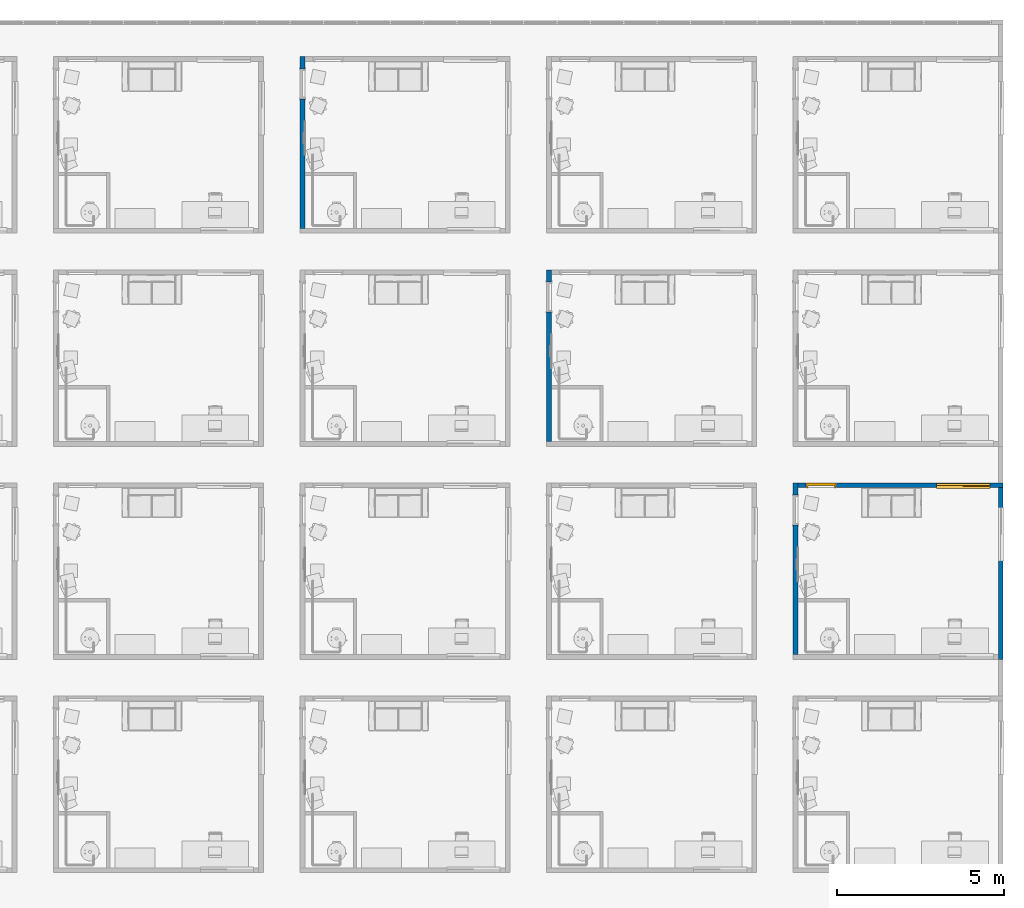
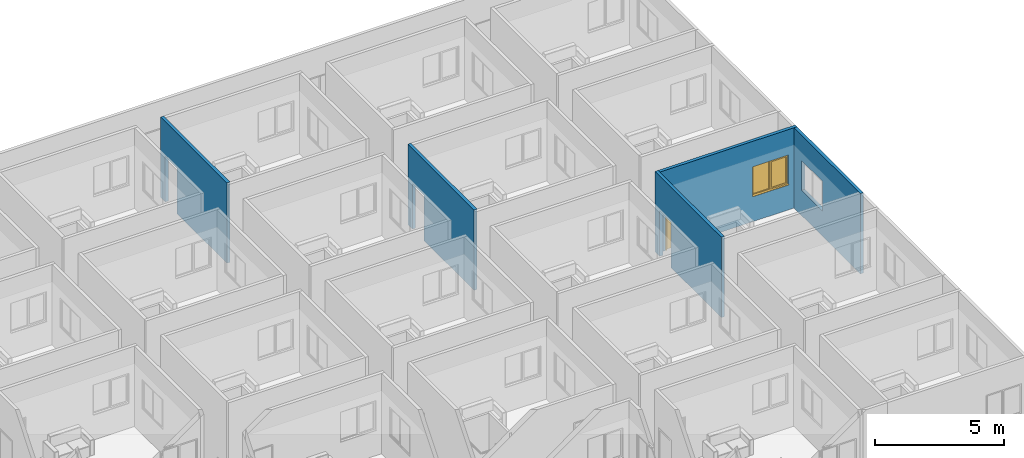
# One storey, part 11 of 72: 5 walls, 1 door, 1 window, 6 openings.
"""IFC4 building model written with IfcOpenShell, lengths in centimetres."""

from ifc_helpers import new_model, entity, si_unit, converted_unit, derived_unit, direction, frame, origin, place, context, subcontext, project, spatial, indexed_curve, outline, extrude, polygons, source, transform, mapped, material, constituent, constituent_set, type_object, type_shapes, element, fill, save


model = new_model("IFC4")

# Units and contexts
model_context = context("Model", 3, precision=0.001, world=origin(), true_north=direction((6.123233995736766e-17, 1.0)))
body_context = subcontext(model_context, "Body", "Model", "MODEL_VIEW")
ifc_project = project(units=[si_unit("LENGTHUNIT", "METRE", prefix="CENTI"), si_unit("AREAUNIT", "SQUARE_METRE"), si_unit("VOLUMEUNIT", "CUBIC_METRE"), derived_unit("THERMALTRANSMITTANCEUNIT", [(si_unit("MASSUNIT", "GRAM", prefix="KILO"), 1), (si_unit("THERMODYNAMICTEMPERATUREUNIT", "KELVIN"), -1), (si_unit("TIMEUNIT", "SECOND"), -3)]), converted_unit("PLANEANGLEUNIT", "DEGREE", entity("IfcPlaneAngleMeasure", 0.017453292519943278), si_unit("PLANEANGLEUNIT", "RADIAN"), dimensions=[0, 0, 0, 0, 0, 0, 0]), derived_unit("MASSDENSITYUNIT", [(si_unit("MASSUNIT", "GRAM", prefix="KILO"), 1), (si_unit("LENGTHUNIT", "METRE"), -3)]), derived_unit("VAPORPERMEABILITYUNIT", [(si_unit("LENGTHUNIT", "METRE"), -1), (si_unit("TIMEUNIT", "SECOND"), 1)]), derived_unit("USERDEFINED", [(si_unit("MASSUNIT", "GRAM", prefix="KILO"), 1), (si_unit("TIMEUNIT", "SECOND"), -3), (si_unit("LENGTHUNIT", "METRE"), 3), (si_unit("ELECTRICCURRENTUNIT", "AMPERE"), -2)]), derived_unit("SPECIFICHEATCAPACITYUNIT", [(si_unit("THERMODYNAMICTEMPERATUREUNIT", "KELVIN"), -1), (si_unit("LENGTHUNIT", "METRE"), 2), (si_unit("TIMEUNIT", "SECOND"), -2)]), derived_unit("THERMALCONDUCTANCEUNIT", [(si_unit("MASSUNIT", "GRAM", prefix="KILO"), 1), (si_unit("THERMODYNAMICTEMPERATUREUNIT", "KELVIN"), -1), (si_unit("TIMEUNIT", "SECOND"), -3), (si_unit("LENGTHUNIT", "METRE"), 1)]), si_unit("PRESSUREUNIT", "PASCAL"), derived_unit("MODULUSOFELASTICITYUNIT", [(si_unit("MASSUNIT", "GRAM", prefix="KILO"), 1), (si_unit("LENGTHUNIT", "METRE"), -1), (si_unit("TIMEUNIT", "SECOND"), -2)]), derived_unit("THERMALEXPANSIONCOEFFICIENTUNIT", [(si_unit("THERMODYNAMICTEMPERATUREUNIT", "KELVIN"), -1)])], contexts=[model_context])

# Site, building, storey
site_placement = place(None, origin())
site = spatial("IfcSite", under=ifc_project, at=site_placement, Name="Default", CompositionType="ELEMENT")
building_placement = place(site_placement, origin())
building = spatial("IfcBuilding", under=site, at=building_placement, Name="IDS Escape Game Building", CompositionType="ELEMENT")
storey_placement = place(building_placement, frame((0.0, 0.0, 800.0)))
storey = spatial("IfcBuildingStorey", under=building, at=storey_placement, Name="02_Second Floor", CompositionType="ELEMENT", Elevation=800.0)

# Wall, opening
ifc_material_1 = material(Name="ARC_FME.g2_Fg2 Masonry_00_gen_BERSnl", Category="g - klei")
wall_type = type_object("IfcWallType", Name="Basic Wall:ARC_22.10_WA_LB_SB14_gen_BERSnl", PredefinedType="STANDARD")
wall_1_placement = place(storey_placement, frame((4428.0, 1803.0, 0.0), z_axis=(0.0, 0.0, 1.0), x_axis=(0.0, -1.0, 0.0)))
wall_1 = element("IfcWall", 1, at=wall_1_placement, inside=storey, type_object=wall_type, material=ifc_material_1, Name="Basic Wall:ARC_22.10_WA_LB_SB14_gen_BERSnl", ObjectType="Basic Wall:ARC_22.10_WA_LB_SB14_gen_BERSnl", PredefinedType="NOTDEFINED", context=body_context, shape_type="Tessellation", body=[
    polygons([(514.0000000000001, -7.000000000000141, 379.9999999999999), (0.0, -7.000000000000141, 379.9999999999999), (0.0, -7.000000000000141, -1.0828671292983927e-13), (35.999999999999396, -7.000000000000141, -1.0828671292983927e-13), (35.99999999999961, -7.000000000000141, 215.00000000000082), (125.99999999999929, -7.000000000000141, 215.00000000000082), (125.99999999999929, -7.000000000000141, -1.0828671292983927e-13), (514.0000000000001, -7.000000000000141, -1.0828671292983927e-13), (0.0, 7.000000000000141, 379.9999999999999), (14.000000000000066, 7.000000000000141, 379.9999999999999), (514.0000000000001, 7.000000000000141, 379.9999999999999), (514.0000000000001, 7.000000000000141, -1.0828671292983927e-13), (355.999999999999, 7.000000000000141, -1.0828671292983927e-13), (345.99999999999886, 7.000000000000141, -1.0828671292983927e-13), (125.99999999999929, 7.000000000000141, -1.0828671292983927e-13), (125.99999999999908, 7.000000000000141, 215.00000000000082), (35.999999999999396, 7.000000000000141, 215.00000000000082), (35.999999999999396, 7.000000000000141, -1.0828671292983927e-13), (14.000000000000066, 7.000000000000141, -1.0828671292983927e-13), (0.0, 7.000000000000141, -1.0828671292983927e-13)], [[[1, 2, 3, 4, 5, 6, 7, 8]], [[9, 10, 11, 12, 13, 14, 15, 16, 17, 18, 19, 20]], [[3, 20, 19, 18, 4]], [[2, 1, 11, 10, 9]], [[17, 5, 4, 18]], [[6, 16, 15, 7]], [[5, 17, 16, 6]], [[3, 2, 9, 20]], [[1, 8, 12, 11]], [[12, 8, 7, 15, 14, 13]]], closed=True),
])
opening_1_placement = place(wall_1_placement, frame((1803.0, -4428.0, 0.0), z_axis=(0.0, 0.0, 1.0), x_axis=(0.0, 1.0, 0.0)))
element("IfcOpeningElement", 2, at=opening_1_placement, cuts=wall_1, Name="Basic Wall:ARC_22.10_WA_LB_SB14_gen_BERSnl", PredefinedType="OPENING", context=body_context, shape_type="SweptSolid", body=[
    extrude(outline(indexed_curve([(-137.49999999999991, -44.99999999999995), (137.49999999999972, -44.99999999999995), (137.49999999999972, 44.99999999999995), (-137.49999999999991, 44.99999999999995), (-137.49999999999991, -44.99999999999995)], self_intersect=False)), frame((4338.0, 1722.0, 77.50000000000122), z_axis=(1.0, 0.0, 0.0), x_axis=(0.0, 0.0, 1.0)), (0.0, 0.0, 1.0), 166.00000000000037),
])

# Wall, openings, door, window
wall_2_placement = place(storey_placement, frame((5049.0, 1796.0, 0.0), z_axis=(0.0, 0.0, 1.0), x_axis=(-1.0, 0.0, 0.0)))
wall_2 = element("IfcWall", 3, at=wall_2_placement, inside=storey, type_object=wall_type, material=ifc_material_1, Name="Basic Wall:ARC_22.10_WA_LB_SB14_gen_BERSnl", ObjectType="Basic Wall:ARC_22.10_WA_LB_SB14_gen_BERSnl", PredefinedType="NOTDEFINED", context=body_context, shape_type="Tessellation", body=[
    polygons([(38.999999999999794, -7.0000000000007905, 119.9999999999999), (38.999999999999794, -7.0000000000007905, 260.0000000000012), (198.9999999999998, -7.0000000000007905, 260.0000000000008), (198.9999999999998, -7.0000000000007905, 119.9999999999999), (194.00000000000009, -7.000000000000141, 119.9999999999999), (43.999999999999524, -7.000000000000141, 119.9999999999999), (613.9999999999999, -7.000000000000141, 379.9999999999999), (14.000000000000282, -7.000000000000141, 379.9999999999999), (0.0, -7.000000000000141, 379.9999999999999), (0.0, -7.000000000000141, -1.0828671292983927e-13), (14.000000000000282, -7.000000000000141, -1.0828671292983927e-13), (498.99999999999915, -7.000000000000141, -1.0828671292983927e-13), (498.99999999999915, -7.000000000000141, 215.00000000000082), (588.9999999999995, -7.000000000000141, 215.00000000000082), (588.9999999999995, -7.000000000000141, -1.0828671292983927e-13), (613.9999999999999, -7.000000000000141, -1.0828671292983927e-13), (0.0, 6.9999999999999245, 379.9999999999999), (14.000000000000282, 6.9999999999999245, 379.9999999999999), (613.9999999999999, 6.9999999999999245, 379.9999999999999), (613.9999999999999, 6.9999999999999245, -1.0828671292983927e-13), (588.9999999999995, 6.9999999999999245, -1.0828671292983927e-13), (588.9999999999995, 6.9999999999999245, 215.00000000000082), (498.99999999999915, 6.9999999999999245, 215.00000000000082), (498.99999999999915, 6.9999999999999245, -1.0828671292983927e-13), (14.000000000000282, 6.9999999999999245, -1.0828671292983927e-13), (0.0, 6.9999999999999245, -1.0828671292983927e-13), (38.999999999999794, 6.9999999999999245, 260.00000000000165), (38.999999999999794, 6.9999999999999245, 119.9999999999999), (198.9999999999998, 6.9999999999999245, 119.9999999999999), (198.9999999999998, 6.9999999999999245, 260.0000000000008)], [[[7, 8, 9, 10, 11, 12, 13, 14, 15, 16], [1, 2, 3, 4, 5, 6]], [[17, 18, 19, 20, 21, 22, 23, 24, 25, 26], [27, 28, 29, 30]], [[12, 11, 10, 26, 25, 24]], [[9, 8, 7, 19, 18, 17]], [[14, 22, 21, 15]], [[23, 13, 12, 24]], [[22, 14, 13, 23]], [[1, 28, 27, 2]], [[3, 30, 29, 4]], [[30, 3, 2, 27]], [[28, 1, 6, 5, 4, 29]], [[10, 9, 17, 26]], [[7, 16, 20, 19]], [[16, 15, 21, 20]]], closed=True),
])
opening_2_placement = place(wall_2_placement, frame((5049.0, 1796.0, 0.0), z_axis=(0.0, 0.0, 1.0), x_axis=(-1.0, 0.0, 0.0)))
opening_2 = element("IfcOpeningElement", 4, at=opening_2_placement, cuts=wall_2, Name="Basic Wall:ARC_22.10_WA_LB_SB14_gen_BERSnl", PredefinedType="OPENING", context=body_context, shape_type="SweptSolid", body=[
    extrude(outline(indexed_curve([(-45.00000000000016, -137.49999999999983), (45.00000000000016, -137.49999999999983), (45.00000000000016, 137.49999999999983), (-45.00000000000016, 137.49999999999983), (-45.00000000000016, -137.49999999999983)], self_intersect=False)), frame((4505.0, 1886.0, 77.50000000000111), z_axis=(0.0, -1.0, 0.0), x_axis=(1.0, 0.0, 0.0)), (0.0, 0.0, 1.0), 165.99999999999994),
])
opening_3_placement = place(wall_2_placement, frame((5049.0, 1796.0, 120.0), z_axis=(0.0, 0.0, 1.0), x_axis=(-1.0, 0.0, 0.0)))
opening_3 = element("IfcOpeningElement", 5, at=opening_3_placement, cuts=wall_2, Name="Basic Wall:ARC_22.10_WA_LB_SB14_gen_BERSnl", PredefinedType="OPENING", context=body_context, shape_type="Tessellation", body=[
    polygons([(5010.0, 1803.0, 0.0), (5010.0, 1803.0, -0.9999999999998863), (5010.0, 1808.0000000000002, -0.9999999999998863), (5010.0, 1808.0000000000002, 0.0), (4850.0, 1803.0, 0.0), (4850.0, 1808.0000000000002, 0.0), (4850.0, 1808.0000000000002, -0.9999999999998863), (4850.0, 1803.0, -0.9999999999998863), (5005.0, 1803.0000000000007, 1.1368683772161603e-13), (4855.0, 1803.0000000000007, 1.1368683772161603e-13), (4855.0, 1808.0000000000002, 0.0), (4855.000000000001, 1808.0000000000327, 134.99999999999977), (5005.0, 1808.0000000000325, 134.99999999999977), (5005.0, 1808.0000000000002, 0.0), (5010.0, 1783.9631748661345, 0.0), (5010.0, 1803.0000000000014, 1.1368683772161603e-13), (5010.0, 1803.0000000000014, 140.0000000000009), (5010.0, 1783.9631748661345, 140.00000000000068), (4850.0, 1783.9631748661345, 140.00000000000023), (4850.0, 1803.0000000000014, 140.00000000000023), (4850.0, 1803.0000000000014, 0.0), (4850.0, 1783.9631748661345, 1.1368683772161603e-13), (5005.0, 1803.0000000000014, 134.99999999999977), (4855.000000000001, 1803.0000000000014, 134.99999999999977)], [[[1, 2, 3, 4]], [[5, 6, 7, 8]], [[1, 9, 10, 5, 8, 2]], [[2, 8, 7, 3]], [[3, 7, 6, 11, 12, 13, 14, 4]], [[4, 14, 9, 1]], [[15, 16, 17, 18]], [[19, 20, 21, 22]], [[18, 17, 20, 19]], [[18, 19, 22, 15]], [[17, 16, 9, 23, 24, 10, 21, 20]], [[22, 21, 10, 9, 16, 15]], [[11, 10, 24, 12]], [[13, 23, 9, 14]], [[12, 24, 23, 13]], [[5, 10, 11, 6]]], closed=True),
])
ifc_material_2 = material(Name="ARC_FME.i3_wood_00_gen_BERSnl", Category="i - hout")
door_type = type_object("IfcDoorType", Name="ARC_32.30_DO_WB_binnendeur enkel draaiend met void_gen_BERSnl:hout_blokkader_830x2115_EI00", OperationType="SINGLE_SWING_LEFT", PredefinedType="DOOR", material=ifc_material_2)
shared_shape_1 = source(origin(), body_context, "Body", "Tessellation", [
    extrude(outline(indexed_curve([(-3.7499999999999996, -41.49999999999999), (3.7499999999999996, -41.49999999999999), (3.7499999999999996, 41.49999999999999), (-3.7499999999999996, 41.49999999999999), (-3.7499999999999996, -41.49999999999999)], self_intersect=False)), frame((45.0, 107.25000000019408, 60.0), z_axis=(0.0, 0.0, 1.0), x_axis=(0.0, -1.0, 0.0)), (0.0, 0.0, 1.0), 211.50000000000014),
    polygons([(1.000000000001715, 111.00000000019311, 59.999999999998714), (3.5000000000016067, 111.00000000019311, 59.999999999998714), (3.500000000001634, 103.50000000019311, 59.999999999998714), (5.000000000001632, 103.50000000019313, 59.999999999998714), (5.000000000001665, 96.00000000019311, 59.999999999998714), (1.0000000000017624, 96.0000000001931, 59.999999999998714), (1.0000000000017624, 96.0000000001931, 273.99999999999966), (1.000000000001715, 111.0000000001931, 273.99999999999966), (5.000000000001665, 96.00000000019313, 269.9999999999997), (85.00000000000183, 96.00000000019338, 269.9999999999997), (85.00000000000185, 96.00000000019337, 59.9999999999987), (89.00000000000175, 96.00000000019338, 59.9999999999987), (89.00000000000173, 96.0000000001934, 273.99999999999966), (5.000000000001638, 103.50000000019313, 269.9999999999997), (3.500000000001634, 103.50000000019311, 271.4999999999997), (86.50000000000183, 103.50000000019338, 271.4999999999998), (86.50000000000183, 103.50000000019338, 59.9999999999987), (85.00000000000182, 103.50000000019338, 59.9999999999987), (85.00000000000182, 103.50000000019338, 269.9999999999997), (3.500000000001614, 111.00000000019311, 271.4999999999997), (89.00000000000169, 111.0000000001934, 273.99999999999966), (89.00000000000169, 111.0000000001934, 59.9999999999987), (86.50000000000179, 111.00000000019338, 59.9999999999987), (86.5000000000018, 111.00000000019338, 271.4999999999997)], [[[1, 2, 3, 4, 5, 6]], [[6, 7, 8, 1]], [[5, 9, 10, 11, 12, 13, 7, 6]], [[4, 14, 9, 5]], [[3, 15, 16, 17, 18, 19, 14, 4]], [[2, 20, 15, 3]], [[1, 8, 21, 22, 23, 24, 20, 2]], [[13, 12, 22, 21]], [[22, 12, 11, 18, 17, 23]], [[19, 18, 11, 10]], [[24, 23, 17, 16]], [[7, 13, 21, 8]], [[14, 19, 10, 9]], [[20, 24, 16, 15]]], closed=True),
])
type_shapes(door_type, [shared_shape_1])
door_placement = place(opening_2_placement, frame((4460.0, 1692.0, -60.0)))
door = element("IfcDoor", 6, at=door_placement, inside=storey, type_object=door_type, material=ifc_material_2, Name="ARC_32.30_DO_WB_binnendeur enkel draaiend met void_gen_BERSnl:hout_blokkader_830x2115_EI00", ObjectType="ARC_32.30_DO_WB_binnendeur enkel draaiend met void_gen_BERSnl:hout_blokkader_830x2115_EI00", OverallHeight=274.99999999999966, OverallWidth=90.00000000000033, PredefinedType="DOOR", context=body_context, shape_type="MappedRepresentation", body=[
    mapped(shared_shape_1, transform((0.0, 0.0, 0.0), scale=1.0)),
])
fill(opening_2, door)
ifc_material_3 = material(Name="<Unnamed>")
ifc_constituent_1 = constituent(ifc_material_3, Name="<Unnamed>", fraction=0.0)
ifc_material_4 = material(Name="ARC_FME.o1_glass_00_gen_BERSnl", Category="o - glas")
ifc_constituent_2 = constituent(ifc_material_4, Name="ARC_FME.o1_glass_00_gen_BERSnl", Category="o - glas", fraction=1.0)
ifc_constituent_set_1 = constituent_set(constituents=[ifc_constituent_1, ifc_constituent_2])
ifc_constituent_3 = constituent(ifc_material_3, Name="BE Tablet", fraction=0.0)
ifc_constituent_4 = constituent(ifc_material_3, Name="Frame/Mullion", fraction=0.0)
ifc_constituent_5 = constituent(ifc_material_4, Name="Glass", Category="o - glas", fraction=1.0)
ifc_constituent_set_2 = constituent_set(constituents=[ifc_constituent_3, ifc_constituent_4, ifc_constituent_5])
window_type = type_object("IfcWindowType", Name="ARC_31_WI_WB_Dubbel Raam-Recht-Vast en Draaiend_gen_BERSnl:Links-Draaiend / Rechts-Draaiend", PartitioningType="NOTDEFINED", PredefinedType="WINDOW", material=ifc_constituent_set_2)
shared_shape_2 = source(origin(), body_context, "Body", "Tessellation", [
    extrude(outline(indexed_curve([(-80.00000000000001, -4.999999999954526), (80.00000000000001, -4.999999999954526), (80.00000000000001, 4.999999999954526), (-80.00000000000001, 4.999999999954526), (-80.00000000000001, -4.999999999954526)], self_intersect=False)), frame((80.0, 7.036825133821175, 1.0), z_axis=(0.0, 0.0, 1.0), x_axis=(-1.0, 0.0, 0.0)), (0.0, 0.0, 1.0), 2.000000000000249),
    extrude(outline(indexed_curve([(-2.9999999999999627, -3.000000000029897), (-7.656209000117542e-14, -3.000000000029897), (-7.064016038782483e-14, 5.979964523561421e-11), (3.0000000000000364, 5.978991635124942e-11), (3.0000000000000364, 2.9999999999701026), (-2.9999999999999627, 2.9999999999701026), (-2.9999999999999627, -3.000000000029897)], self_intersect=False)), frame((80.0, 15.03682513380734, 7.0)), (0.0, 0.0, 1.0), 128.00000000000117),
    extrude(outline(indexed_curve([(-35.499999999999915, -1.2000000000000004), (35.499999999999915, -1.2000000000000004), (35.49999999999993, 1.2), (-35.499999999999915, 1.2), (-35.499999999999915, -1.2000000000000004)], self_intersect=False)), frame((41.50000000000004, 15.036825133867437, 7.0), z_axis=(0.0, 0.0, 1.0), x_axis=(-1.0, 0.0, 0.0)), (0.0, 0.0, 1.0), 128.000000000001),
    extrude(outline(indexed_curve([(-67.00000000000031, -38.500000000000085), (67.00000000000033, -38.5000000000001), (67.00000000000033, 38.50000000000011), (-67.00000000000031, 38.50000000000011), (-67.00000000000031, -38.500000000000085)], self_intersect=False), holes=[indexed_curve([(61.00000000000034, -32.50000000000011), (-61.00000000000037, -32.500000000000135), (-61.00000000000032, 32.50000000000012), (61.00000000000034, 32.50000000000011), (61.00000000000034, -32.50000000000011)], self_intersect=False)]), frame((118.5, 9.03682513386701, 71.0), z_axis=(0.0, 1.0, 0.0), x_axis=(0.0, 0.0, -1.0)), (0.0, 0.0, 1.0), 6.0),
    extrude(outline(indexed_curve([(-32.500000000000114, -1.2000000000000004), (32.500000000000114, -1.2000000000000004), (32.500000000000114, 1.2000000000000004), (-32.500000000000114, 1.2000000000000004), (-32.500000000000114, -1.2000000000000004)], self_intersect=False)), frame((118.5, 12.036825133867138, 10.0), z_axis=(0.0, 0.0, 1.0), x_axis=(-1.0, 0.0, 0.0)), (0.0, 0.0, 1.0), 122.00000000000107),
    polygons([(160.00000000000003, 18.03682513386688, 141.00000000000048), (160.00000000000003, 18.03682513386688, 1.0000000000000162), (4.0607517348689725e-14, 18.036825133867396, 1.0000000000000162), (4.0607517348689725e-14, 18.036825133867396, 141.00000000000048), (6.000000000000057, 18.03682513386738, 135.00000000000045), (6.000000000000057, 18.03682513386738, 7.000000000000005), (76.99999999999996, 18.03682513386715, 7.000000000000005), (154.00000000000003, 18.0368251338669, 7.000000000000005), (154.00000000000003, 18.0368251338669, 135.00000000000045), (76.99999999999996, 18.03682513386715, 135.00000000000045), (160.0, 12.03682513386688, 141.00000000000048), (160.0, 12.03682513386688, 1.0000000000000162), (2.7071678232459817e-14, 12.036825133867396, 1.0000000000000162), (2.7071678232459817e-14, 12.036825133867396, 141.00000000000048), (6.000000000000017, 12.036825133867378, 135.00000000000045), (6.000000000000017, 12.036825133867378, 7.000000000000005), (76.99999999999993, 12.036825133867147, 7.000000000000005), (79.99999999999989, 12.036825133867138, 7.000000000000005), (79.9999999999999, 15.036825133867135, 7.000000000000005), (154.00000000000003, 15.0368251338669, 7.000000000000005), (154.00000000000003, 15.036825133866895, 135.00000000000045), (76.99999999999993, 12.036825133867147, 135.00000000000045), (79.99999999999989, 12.036825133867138, 135.00000000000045), (79.99999999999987, 12.036825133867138, 138.00000000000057), (157.00000000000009, 12.036825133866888, 138.00000000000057), (157.00000000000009, 12.036825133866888, 3.9999999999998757), (79.99999999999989, 12.036825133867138, 3.9999999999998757), (157.0000000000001, 15.036825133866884, 3.9999999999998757), (157.0000000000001, 15.036825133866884, 138.00000000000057), (79.99999999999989, 15.036825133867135, 3.9999999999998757), (79.99999999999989, 15.036825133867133, 138.00000000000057), (79.99999999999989, 15.036825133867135, 135.00000000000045)], [[[1, 2, 3, 4], [5, 6, 7, 8, 9, 10]], [[2, 1, 11, 12]], [[3, 2, 12, 13]], [[4, 3, 13, 14]], [[6, 5, 15, 16]], [[6, 16, 17, 18, 19, 20, 8, 7]], [[9, 8, 20, 21]], [[11, 14, 13, 12], [16, 15, 22, 23, 24, 25, 26, 27, 18, 17]], [[28, 26, 25, 29]], [[30, 27, 26, 28]], [[31, 24, 23, 32]], [[30, 28, 29, 31, 32, 21, 20, 19]], [[1, 4, 14, 11]], [[15, 5, 10, 9, 21, 32, 23, 22]], [[24, 31, 29, 25]], [[27, 30, 19, 18]]], closed=True),
])
type_shapes(window_type, [shared_shape_2])
window_placement = place(opening_3_placement, frame((4850.0, 1783.9631748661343, -1.0)))
window = element("IfcWindow", 7, at=window_placement, inside=storey, type_object=window_type, material=ifc_constituent_set_1, Name="ARC_31_WI_WB_Dubbel Raam-Recht-Vast en Draaiend_gen_BERSnl:Links-Draaiend / Rechts-Draaiend", ObjectType="ARC_31_WI_WB_Dubbel Raam-Recht-Vast en Draaiend_gen_BERSnl:Links-Draaiend / Rechts-Draaiend", OverallHeight=140.00000000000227, OverallWidth=160.0000000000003, PartitioningType="NOTDEFINED", PredefinedType="WINDOW", context=body_context, shape_type="MappedRepresentation", body=[
    mapped(shared_shape_2, transform((0.0, 0.0, 0.0), scale=1.0)),
])
fill(opening_3, window)

# Wall, opening
wall_3_placement = place(storey_placement, frame((5042.0, 1275.0, 0.0), z_axis=(0.0, 0.0, 1.0), x_axis=(0.0, 1.0, 0.0)))
wall_3 = element("IfcWall", 8, at=wall_3_placement, inside=storey, type_object=wall_type, material=ifc_material_1, Name="Basic Wall:ARC_22.10_WA_LB_SB14_gen_BERSnl", ObjectType="Basic Wall:ARC_22.10_WA_LB_SB14_gen_BERSnl", PredefinedType="NOTDEFINED", context=body_context, shape_type="Tessellation", body=[
    polygons([(0.0, -7.000000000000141, -1.0828671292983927e-13), (514.0000000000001, -7.000000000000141, -1.0828671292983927e-13), (514.0000000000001, -7.000000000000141, 379.9999999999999), (0.0, -7.000000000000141, 379.9999999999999), (454.0000000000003, -7.000000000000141, 260.00000000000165), (454.0000000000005, -7.000000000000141, 119.9999999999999), (294.0000000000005, -7.000000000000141, 119.9999999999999), (294.0000000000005, -7.000000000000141, 260.00000000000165), (454.0000000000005, 7.000000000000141, 119.9999999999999), (454.0000000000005, 7.000000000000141, 260.0000000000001), (294.0000000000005, 7.000000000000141, 260.0000000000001), (294.0000000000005, 7.000000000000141, 119.9999999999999), (0.0, 7.000000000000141, -1.0828671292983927e-13), (0.0, 7.000000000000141, 379.9999999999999), (14.000000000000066, 7.000000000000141, 379.9999999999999), (514.0000000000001, 7.000000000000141, 379.9999999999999), (514.0000000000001, 7.000000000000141, -1.0828671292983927e-13), (14.000000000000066, 7.000000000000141, -1.0828671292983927e-13)], [[[1, 2, 3, 4], [5, 6, 7, 8]], [[13, 14, 15, 16, 17, 18], [9, 10, 11, 12]], [[2, 1, 13, 18, 17]], [[4, 3, 16, 15, 14]], [[10, 9, 6, 5]], [[7, 12, 11, 8]], [[10, 5, 8, 11]], [[12, 7, 6, 9]], [[1, 4, 14, 13]], [[3, 2, 17, 16]]], closed=True),
])
opening_4_placement = place(wall_3_placement, frame((-1275.0, 5042.0, 120.0), z_axis=(0.0, 0.0, 1.0), x_axis=(0.0, -1.0, 0.0)))
element("IfcOpeningElement", 9, at=opening_4_placement, cuts=wall_3, Name="Basic Wall:ARC_22.10_WA_LB_SB14_gen_BERSnl", PredefinedType="OPENING", context=body_context, shape_type="Tessellation", body=[
    polygons([(5035.0, 1729.0000000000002, 0.0), (5035.0, 1729.0000000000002, -0.9999999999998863), (5030.0, 1729.0000000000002, -0.9999999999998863), (5030.0, 1729.0000000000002, 0.0), (5035.0, 1569.0000000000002, 0.0), (5030.0, 1569.0000000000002, 0.0), (5030.0, 1569.0000000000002, -0.9999999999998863), (5035.0, 1569.0000000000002, -0.9999999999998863), (5034.999999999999, 1724.0000000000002, 1.1368683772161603e-13), (5035.0, 1574.0000000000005, 1.1368683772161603e-13), (5030.0, 1574.0000000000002, 0.0), (5029.999999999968, 1574.0000000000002, 134.99999999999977), (5029.999999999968, 1724.0000000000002, 134.99999999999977), (5030.0, 1724.0000000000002, 0.0), (5054.036825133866, 1729.0000000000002, 0.0), (5034.999999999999, 1729.0000000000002, 1.1368683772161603e-13), (5034.999999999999, 1729.0000000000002, 140.0000000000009), (5054.036825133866, 1729.0000000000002, 140.00000000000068), (5054.036825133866, 1569.0000000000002, 140.00000000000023), (5034.999999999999, 1569.0000000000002, 140.00000000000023), (5034.999999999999, 1569.0000000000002, 0.0), (5054.036825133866, 1569.0000000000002, 1.1368683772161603e-13), (5034.999999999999, 1724.0000000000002, 134.99999999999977), (5034.999999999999, 1574.0000000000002, 134.99999999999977)], [[[1, 2, 3, 4]], [[5, 6, 7, 8]], [[1, 9, 10, 5, 8, 2]], [[2, 8, 7, 3]], [[3, 7, 6, 11, 12, 13, 14, 4]], [[4, 14, 9, 1]], [[15, 16, 17, 18]], [[19, 20, 21, 22]], [[18, 17, 20, 19]], [[18, 19, 22, 15]], [[17, 16, 9, 23, 24, 10, 21, 20]], [[22, 21, 10, 9, 16, 15]], [[11, 10, 24, 12]], [[13, 23, 9, 14]], [[12, 24, 23, 13]], [[5, 10, 11, 6]]], closed=True),
])

wall_4_placement = place(storey_placement, frame((3690.0, 2441.0, 0.0), z_axis=(0.0, 0.0, 1.0), x_axis=(0.0, -1.0, 0.0)))
wall_4 = element("IfcWall", 10, at=wall_4_placement, inside=storey, type_object=wall_type, material=ifc_material_1, Name="Basic Wall:ARC_22.10_WA_LB_SB14_gen_BERSnl", ObjectType="Basic Wall:ARC_22.10_WA_LB_SB14_gen_BERSnl", PredefinedType="NOTDEFINED", context=body_context, shape_type="Tessellation", body=[
    polygons([(513.9999999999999, -6.999999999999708, 379.9999999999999), (0.0, -6.999999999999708, 379.9999999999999), (0.0, -6.999999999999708, -1.0828671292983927e-13), (35.99999999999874, -6.999999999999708, -1.0828671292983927e-13), (35.99999999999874, -6.999999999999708, 215.00000000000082), (125.99999999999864, -6.999999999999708, 215.00000000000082), (125.99999999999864, -6.999999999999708, -1.0828671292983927e-13), (513.9999999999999, -6.999999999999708, -1.0828671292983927e-13), (0.0, 7.000000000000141, 379.9999999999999), (13.999999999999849, 7.000000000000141, 379.9999999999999), (513.9999999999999, 7.000000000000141, 379.9999999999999), (513.9999999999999, 7.000000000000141, -1.0828671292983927e-13), (355.99999999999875, 7.000000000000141, -1.0828671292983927e-13), (345.99999999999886, 7.000000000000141, -1.0828671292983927e-13), (125.99999999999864, 7.000000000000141, -1.0828671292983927e-13), (125.99999999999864, 7.000000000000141, 215.00000000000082), (35.99999999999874, 7.000000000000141, 215.00000000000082), (35.99999999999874, 7.000000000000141, -1.0828671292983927e-13), (13.999999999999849, 7.000000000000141, -1.0828671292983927e-13), (0.0, 7.000000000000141, -1.0828671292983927e-13)], [[[1, 2, 3, 4, 5, 6, 7, 8]], [[9, 10, 11, 12, 13, 14, 15, 16, 17, 18, 19, 20]], [[3, 20, 19, 18, 4]], [[2, 1, 11, 10, 9]], [[17, 5, 4, 18]], [[6, 16, 15, 7]], [[5, 17, 16, 6]], [[3, 2, 9, 20]], [[1, 8, 12, 11]], [[12, 8, 7, 15, 14, 13]]], closed=True),
])
opening_5_placement = place(wall_4_placement, frame((2441.0, -3690.0, 0.0), z_axis=(0.0, 0.0, 1.0), x_axis=(0.0, 1.0, 0.0)))
element("IfcOpeningElement", 11, at=opening_5_placement, cuts=wall_4, Name="Basic Wall:ARC_22.10_WA_LB_SB14_gen_BERSnl", PredefinedType="OPENING", context=body_context, shape_type="SweptSolid", body=[
    extrude(outline(indexed_curve([(-137.49999999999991, -45.00000000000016), (137.49999999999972, -45.00000000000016), (137.49999999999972, 44.99999999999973), (-137.49999999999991, 44.99999999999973), (-137.49999999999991, -45.00000000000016)], self_intersect=False)), frame((3600.0, 2360.0, 77.50000000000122), z_axis=(1.0, 0.0, 0.0), x_axis=(0.0, 0.0, 1.0)), (0.0, 0.0, 1.0), 166.00000000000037),
])

wall_5_placement = place(storey_placement, frame((2952.0, 3079.0, 0.0), z_axis=(0.0, 0.0, 1.0), x_axis=(0.0, -1.0, 0.0)))
wall_5 = element("IfcWall", 12, at=wall_5_placement, inside=storey, type_object=wall_type, material=ifc_material_1, Name="Basic Wall:ARC_22.10_WA_LB_SB14_gen_BERSnl", ObjectType="Basic Wall:ARC_22.10_WA_LB_SB14_gen_BERSnl", PredefinedType="NOTDEFINED", context=body_context, shape_type="Tessellation", body=[
    polygons([(513.9999999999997, -6.999999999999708, 379.9999999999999), (0.0, -6.999999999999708, 379.9999999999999), (0.0, -6.999999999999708, -1.0828671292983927e-13), (35.99999999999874, -6.999999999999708, -1.0828671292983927e-13), (35.99999999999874, -6.999999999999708, 215.00000000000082), (125.99999999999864, -6.999999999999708, 215.00000000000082), (125.99999999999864, -6.999999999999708, -1.0828671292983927e-13), (513.9999999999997, -6.999999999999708, -1.0828671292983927e-13), (0.0, 7.000000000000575, 379.9999999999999), (13.999999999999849, 7.000000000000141, 379.9999999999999), (513.9999999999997, 7.000000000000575, 379.9999999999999), (513.9999999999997, 7.000000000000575, -1.0828671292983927e-13), (355.99999999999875, 7.000000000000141, -1.0828671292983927e-13), (345.99999999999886, 7.000000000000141, -1.0828671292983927e-13), (125.99999999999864, 7.000000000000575, -1.0828671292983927e-13), (125.99999999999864, 7.000000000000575, 215.00000000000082), (35.99999999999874, 7.000000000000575, 215.00000000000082), (35.99999999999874, 7.000000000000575, -1.0828671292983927e-13), (13.999999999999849, 7.000000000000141, -1.0828671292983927e-13), (0.0, 7.000000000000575, -1.0828671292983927e-13)], [[[1, 2, 3, 4, 5, 6, 7, 8]], [[9, 10, 11, 12, 13, 14, 15, 16, 17, 18, 19, 20]], [[3, 20, 19, 18, 4]], [[2, 1, 11, 10, 9]], [[17, 5, 4, 18]], [[6, 16, 15, 7]], [[5, 17, 16, 6]], [[3, 2, 9, 20]], [[1, 8, 12, 11]], [[12, 8, 7, 15, 14, 13]]], closed=True),
])
opening_6_placement = place(wall_5_placement, frame((3079.0, -2952.0, 0.0), z_axis=(0.0, 0.0, 1.0), x_axis=(0.0, 1.0, 0.0)))
element("IfcOpeningElement", 13, at=opening_6_placement, cuts=wall_5, Name="Basic Wall:ARC_22.10_WA_LB_SB14_gen_BERSnl", PredefinedType="OPENING", context=body_context, shape_type="SweptSolid", body=[
    extrude(outline(indexed_curve([(-137.49999999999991, -44.99999999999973), (137.49999999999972, -44.99999999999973), (137.49999999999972, 45.00000000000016), (-137.49999999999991, 45.00000000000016), (-137.49999999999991, -44.99999999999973)], self_intersect=False)), frame((2862.0, 2998.0, 77.50000000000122), z_axis=(1.0, 0.0, 0.0), x_axis=(0.0, 0.0, 1.0)), (0.0, 0.0, 1.0), 166.00000000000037),
])

save(model, "model.ifc")
